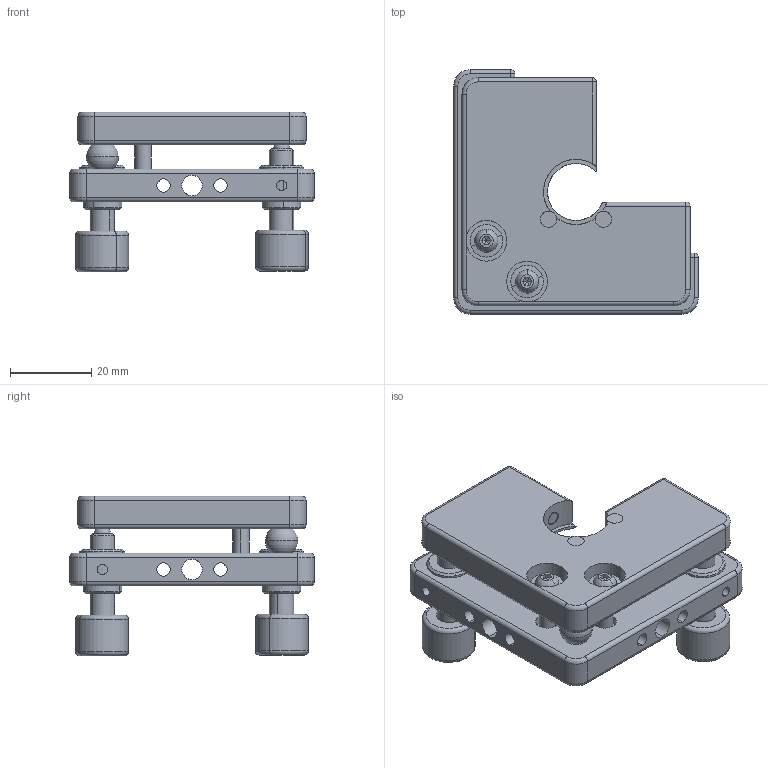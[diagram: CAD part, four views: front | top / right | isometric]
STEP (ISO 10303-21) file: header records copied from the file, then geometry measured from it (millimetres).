
FILE_DESCRIPTION (( 'STEP AP203' ), '1' );
FILE_NAME ('7MM0315謗峎覃誹噩殤.STEP', '2019-10-17T02:22:48', ( '' ), ( '' ), 'SwSTEP 2.0', 'SolidWorks 2014', '' );
FILE_SCHEMA (( 'CONFIG_CONTROL_DESIGN' ));
Length unit declared in the file: millimetre
Products named in the file (1): 7MM0315謗峎覃誹噩殤
Bounding box: 60 x 60 x 39.19 mm (x, y, z)
Surface area: 16715 mm2 (no closed solid volume)
Topology: 0 solids, 36 shells, 291 faces, 725 edges, 444 vertices
Faces by surface type: cylinder 119, plane 88, cone 38, torus 24, sphere 22
Entity records: 9107 total; most frequent: CARTESIAN_POINT 2111, DIRECTION 1601, ORIENTED_EDGE 1250, EDGE_CURVE 698, AXIS2_PLACEMENT_3D 649, VERTEX_POINT 435, CIRCLE 357, EDGE_LOOP 334
